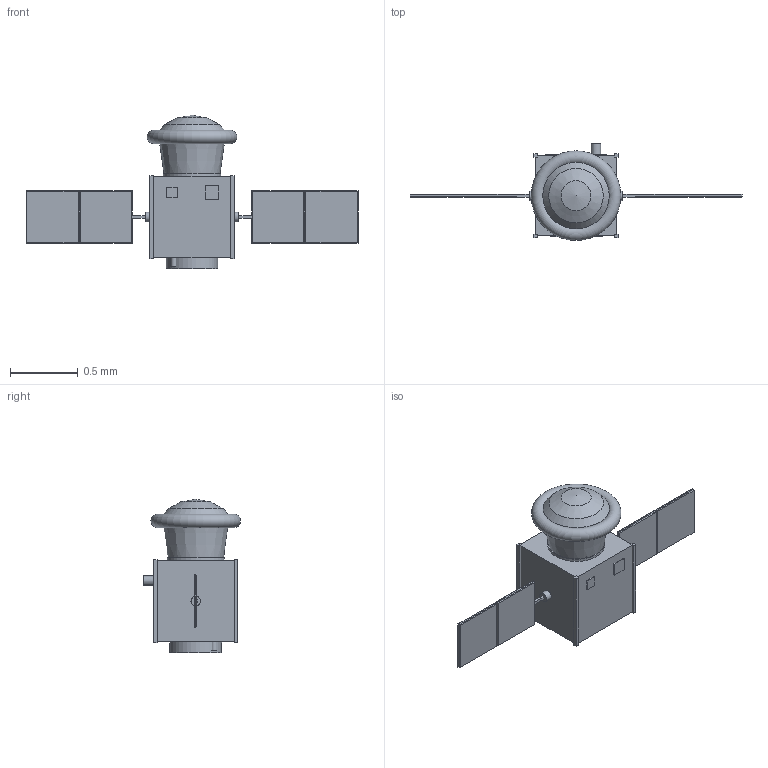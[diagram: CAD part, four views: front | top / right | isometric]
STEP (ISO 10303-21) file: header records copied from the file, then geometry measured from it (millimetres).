
FILE_DESCRIPTION(('Open CASCADE Model'),'2;1');
FILE_NAME('Open CASCADE Shape Model','2026-10-04T09:01:26',('Author'),( 'Open CASCADE'),'Open CASCADE STEP processor 7.9','Open CASCADE 7.9' ,'Unknown');
FILE_SCHEMA(('AUTOMOTIVE_DESIGN { 1 0 10303 214 1 1 1 1 }'));
Length unit declared in the file: millimetre
Products named in the file (45): SP-HRT; capsule_backshell; nose; heat_shield_packed; sample_drawer; culture_system_1; culture_system_2; culture_system_3; capsule_avionics_and_hold_battery; parachute_canister; recovery_beacon; separation_interface; service_module_structure; corner_rail_-X-Y; corner_rail_-X+Y; corner_rail_+X-Y; corner_rail_+X+Y; radiator_+Y_face; experiment_instruments_microscope_pumps_reservoirs; propellant_tank_LMP-103S; battery; on-board_computer_and_radios; reaction_wheel_1; reaction_wheel_2; reaction_wheel_3; magnetorquer_1; magnetorquer_2; star_tracker; S-band_antenna; X-band_antenna; 22_N_thruster_1; 22_N_thruster_2; launch_separation_ring; array_drive_-X; yoke_-X; solar_panel_-X1; panel_frame_-X1; solar_panel_-X2; panel_frame_-X2; array_drive_+X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
Assembly tree (44 placements, depth 2):
  SP-HRT
    capsule_backshell
    nose
    heat_shield_packed
    sample_drawer
    culture_system_1
    culture_system_2
    culture_system_3
    capsule_avionics_and_hold_battery
    parachute_canister
    recovery_beacon
    separation_interface
    service_module_structure
    corner_rail_-X-Y
    corner_rail_-X+Y
    corner_rail_+X-Y
    corner_rail_+X+Y
    radiator_+Y_face
    experiment_instruments_microscope_pumps_reservoirs
    propellant_tank_LMP-103S
    battery
    on-board_computer_and_radios
    reaction_wheel_1
    reaction_wheel_2
    reaction_wheel_3
    magnetorquer_1
    magnetorquer_2
    star_tracker
    S-band_antenna
    X-band_antenna
    22_N_thruster_1
    22_N_thruster_2
    launch_separation_ring
    array_drive_-X
    yoke_-X
    solar_panel_-X1
    panel_frame_-X1
    solar_panel_-X2
    panel_frame_-X2
    array_drive_+X
    yoke_+X
    solar_panel_+X1
    panel_frame_+X1
    solar_panel_+X2
    panel_frame_+X2
Bounding box: 2.45 x 0.72 x 1.13 mm (x, y, z)
Volume: 0.3 mm3; surface area: 9 mm2
Topology: 44 solids, 44 shells, 209 faces, 374 edges, 248 vertices
Faces by surface type: plane 187, cylinder 16, cone 4, torus 1, sphere 1
Full cylindrical faces by diameter (mm): 0.024 x2, 0.04 x1, 0.045 x2, 0.07 x3, 0.09 x3, 0.14 x1, 0.341 x1, 0.381 x1, 0.423 x1, 0.491 x1
Entity records: 10872 total; most frequent: DIRECTION 1656, CARTESIAN_POINT 1611, LINE 1039, VECTOR 1039, ORIENTED_EDGE 740, PCURVE 740, DEFINITIONAL_REPRESENTATION 740, EDGE_CURVE 370
